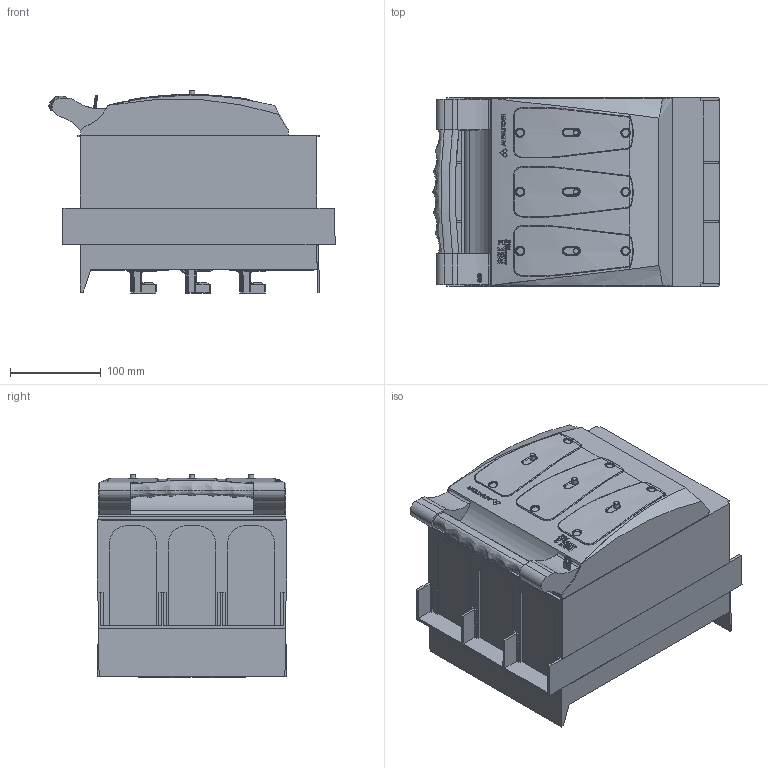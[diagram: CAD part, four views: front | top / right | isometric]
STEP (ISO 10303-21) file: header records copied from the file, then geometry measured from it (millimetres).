
FILE_DESCRIPTION(/* description */ (''),/* implementation_level */ '2;1');
FILE_NAME(/* name */ 'RBK 2 pro-SD-2V 60.stp',/* time_stamp */ '2020-09-30T10:11:13+02:00',/* author */ (''),/* organization */ (''),/* preprocessor_version */ 'ST-DEVELOPER v16',/* originating_system */ 'SIEMENS PLM Software NX 10.0',/* authorisation */ '');
FILE_SCHEMA (('AUTOMOTIVE_DESIGN { 1 0 10303 214 3 1 1 1 }'));
Products named in the file (1): 710_2CE077B1gmis
Bounding box: 314.82 x 208 x 224.12 mm (x, y, z)
Volume: 9246521.8 mm3; surface area: 467321.4 mm2
Topology: 1 solids, 7 shells, 2262 faces, 6274 edges, 3997 vertices
Faces by surface type: plane 1321, cylinder 429, bspline 349, extrusion 95, sphere 43, torus 16, cone 9
Full cylindrical faces by diameter (mm): 6 x3
Entity records: 155898 total; most frequent: CARTESIAN_POINT 99909, ORIENTED_EDGE 12316, DIRECTION 11075, EDGE_CURVE 6158, VERTEX_POINT 3978, AXIS2_PLACEMENT_3D 3908, VECTOR 3259, LINE 3164
